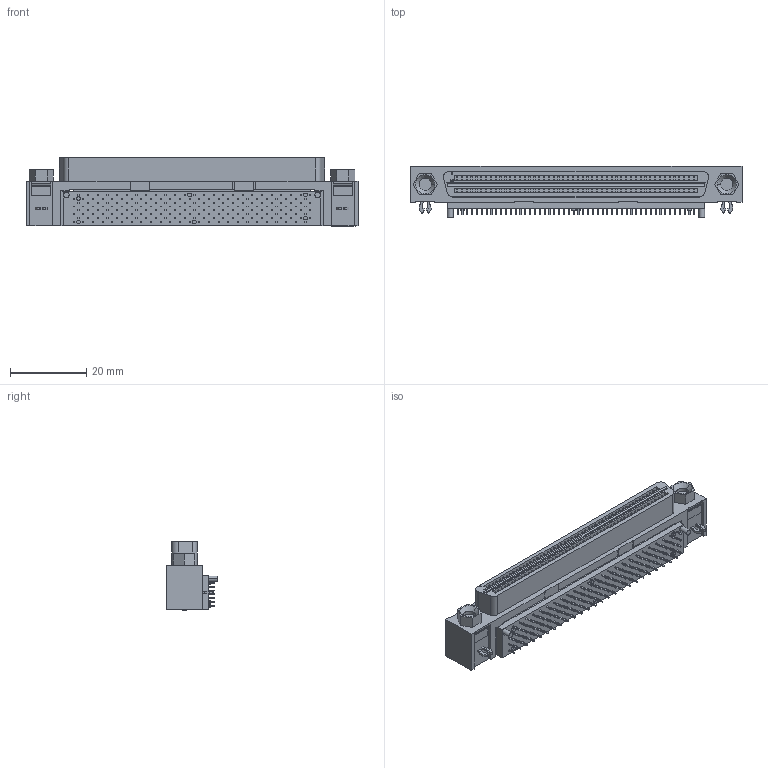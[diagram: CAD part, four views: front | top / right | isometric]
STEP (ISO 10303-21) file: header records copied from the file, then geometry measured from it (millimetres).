
FILE_DESCRIPTION((''),'2;1');
FILE_NAME('C-5787851-02-3','2007-09-01T',('workeradm'),('Tyco Electronics Corporation'),'PRO/ENGINEER BY PARAMETRIC TECHNOLOGY CORPORATION, 2005450','PRO/ENGINEER BY PARAMETRIC TECHNOLOGY CORPORATION, 2005450','');
FILE_SCHEMA(('CONFIG_CONTROL_DESIGN', 'GEOMETRIC_VALIDATION_PROPERTIES_MIM'));
Products named in the file (1): C-5787851-02-3
Bounding box: 87.3 x 13.55 x 17.97 mm (x, y, z)
Volume: 10048.5 mm3; surface area: 8421.6 mm2
Topology: 1 solids, 1 shells, 2434 faces, 6578 edges, 4368 vertices
Faces by surface type: plane 1974, cylinder 454, cone 4, extrusion 2
Entity records: 76628 total; most frequent: CARTESIAN_POINT 13472, ORIENTED_EDGE 13156, DIRECTION 12335, EDGE_CURVE 6578, VECTOR 5663, LINE 5661, VERTEX_POINT 4368, AXIS2_PLACEMENT_3D 3336
